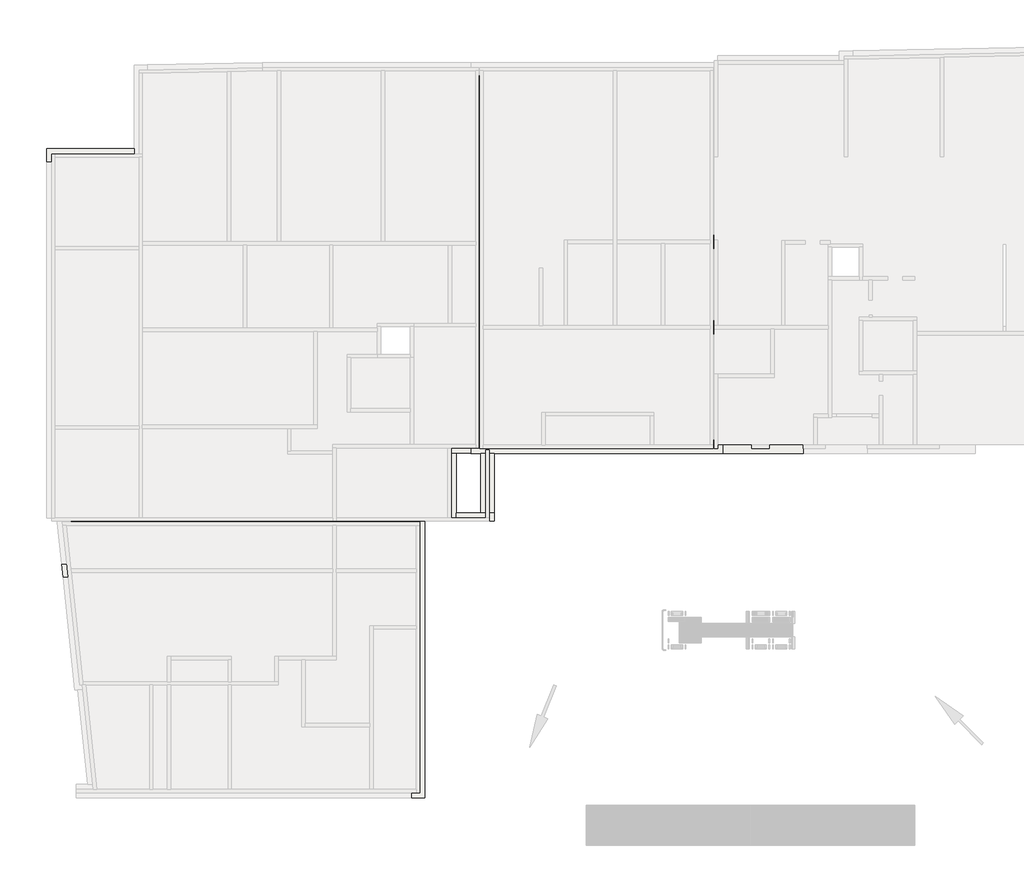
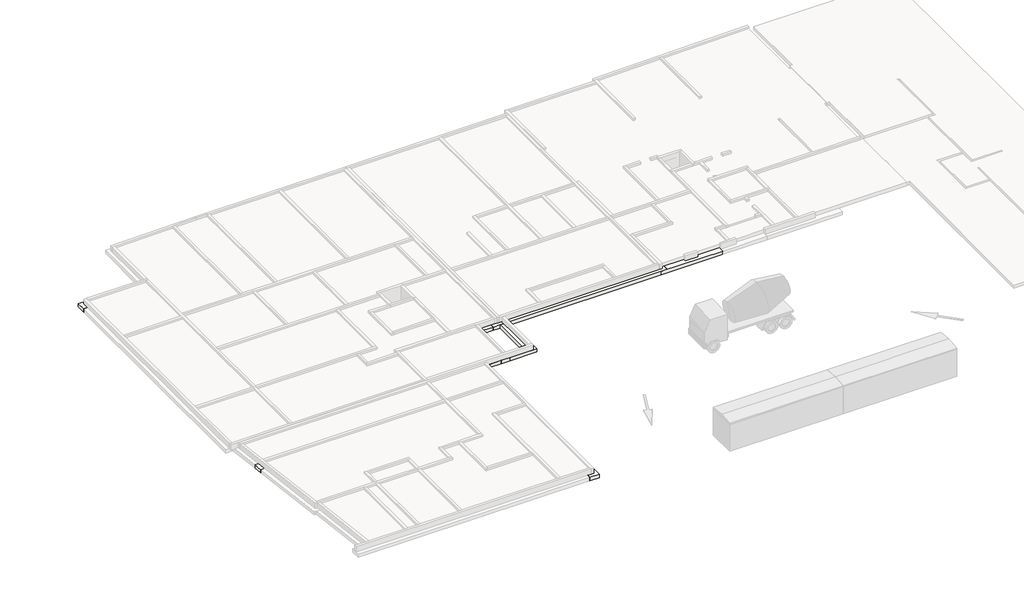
# One storey, part 4 of 5: 46 footings.
"""IFC4 building model written with IfcOpenShell, lengths in millimetres."""

from ifc_helpers import new_model, si_unit, frame, origin, place, context, project, spatial, polyline, outline, extrude, faceted_brep, element, save

model = new_model("IFC4")

# Units and contexts
model_context = context("Model", 3, world=origin())
ifc_project = project(units=[si_unit("LENGTHUNIT", "METRE", prefix="MILLI")], contexts=[model_context])

# Site, building, storey
site = spatial("IfcSite", under=ifc_project)
building = spatial("IfcBuilding", under=site)
storey = spatial("IfcBuildingStorey", under=building, Name="Base Mur soubassement", Elevation=-480.0)

# Footings
placement = place(None, origin())
element("IfcFooting", 1, ObjectType="Soubassement 30 cm/30 cm x 30 cm", at=placement, inside=storey, context=model_context, shape_type="Brep", body=[
    faceted_brep([(31528.7587922, 36682.4079561, -480.0), (31528.7587922, 27172.4500352, -480.0), (31528.7587922, 26372.4500352, -480.0), (31528.7587922, 22073.8066571, -480.0), (32328.7587922, 22073.8066571, -480.0), (32328.7587922, 26372.4500352, -480.0), (32328.7587922, 27172.4500352, -480.0), (32328.7587922, 36682.4079561, -480.0), (32328.7587922, 36682.4079561, -780.0), (32328.7587922, 22073.8066571, -780.0), (32328.7587922, 26372.4500352, -780.0), (32328.7587922, 27172.4500352, -780.0), (31528.7587922, 36682.4079561, -780.0), (31528.7587922, 22073.8066571, -780.0), (31528.7587922, 26372.4500352, -780.0), (31528.7587922, 27172.4500352, -780.0)], [[[0, 1, 2, 3, 4, 5, 6, 7]], [[8, 7, 6, 5, 4, 9, 10, 11]], [[12, 8, 11, 10, 9, 13, 14, 15]], [[0, 12, 15, 14, 13, 3, 2, 1]], [[0, 7, 8, 12]], [[4, 3, 13, 9]]]),
])
element("IfcFooting", 2, ObjectType="Soubassement 30 cm/30 cm x 30 cm", at=placement, inside=storey, context=model_context, shape_type="Brep", body=[
    faceted_brep([(24379.3002373, 27172.4500352, -480.0), (24379.3002373, 27172.4500352, -780.0), (24379.3002373, 26372.4500352, -780.0), (24379.3002373, 26372.4500352, -480.0), (27126.9896309, 26372.4500352, -480.0), (27926.9896309, 26372.4500352, -480.0), (28598.3646686, 26372.4500352, -480.0), (29398.3646686, 26372.4500352, -480.0), (31528.7587922, 26372.4500352, -480.0), (31528.7587922, 27172.4500352, -480.0), (31528.7587922, 27172.4500352, -780.0), (31528.7587922, 26372.4500352, -780.0), (29398.3646686, 26372.4500352, -780.0), (28598.3646686, 26372.4500352, -780.0), (27926.9896309, 26372.4500352, -780.0), (27126.9896309, 26372.4500352, -780.0)], [[[0, 1, 2, 3]], [[0, 3, 4, 5, 6, 7, 8, 9]], [[1, 0, 9, 10]], [[2, 1, 10, 11, 12, 13, 14, 15]], [[3, 2, 15, 14, 13, 12, 11, 8, 7, 6, 5, 4]], [[9, 8, 11, 10]]]),
    faceted_brep([(38358.398272, 26372.4500352, -480.0), (38358.398272, 27157.8817009, -480.0), (38358.398272, 27172.4500352, -480.0), (37308.398272, 27172.4500352, -480.0), (32328.7587922, 27172.4500352, -480.0), (32328.7587922, 26372.4500352, -480.0), (34393.5365752, 26372.4500352, -480.0), (35193.5365752, 26372.4500352, -480.0), (37308.398272, 26372.4500352, -480.0), (38166.5033212, 26372.4500352, -480.0), (38358.398272, 27172.4500352, -780.0), (37308.398272, 27172.4500352, -780.0), (32328.7587922, 27172.4500352, -780.0), (38358.398272, 27157.8817009, -780.0), (38358.398272, 26372.4500352, -780.0), (38166.5033212, 26372.4500352, -780.0), (37308.398272, 26372.4500352, -780.0), (35193.5365752, 26372.4500352, -780.0), (34393.5365752, 26372.4500352, -780.0), (32328.7587922, 26372.4500352, -780.0)], [[[0, 1, 2, 3, 4, 5, 6, 7, 8, 9]], [[2, 10, 11, 12, 4, 3]], [[10, 13, 14, 15, 16, 17, 18, 19, 12, 11]], [[14, 0, 9, 8, 7, 6, 5, 19, 18, 17, 16, 15]], [[5, 4, 12, 19]], [[2, 1, 0, 14, 13, 10]]]),
])
element("IfcFooting", 3, ObjectType="Soubassement 30 cm/30 cm x 30 cm", at=placement, inside=storey, context=model_context, shape_type="Brep", body=[
    faceted_brep([(38358.398272, 22073.8066571, -480.0), (37308.398272, 22073.8066571, -480.0), (35193.5365752, 22073.8066571, -480.0), (34393.5365752, 22073.8066571, -480.0), (32328.7587922, 22073.8066571, -480.0), (31528.7587922, 22073.8066571, -480.0), (29398.3646686, 22073.8066571, -480.0), (28598.3646686, 22073.8066571, -480.0), (27926.9896309, 22073.8066571, -480.0), (27126.9896309, 22073.8066571, -480.0), (24379.3002373, 22073.8066571, -480.0), (23619.3814813, 22073.8066571, -480.0), (23329.3002373, 22073.8066571, -480.0), (23329.3002373, 21416.9971343, -480.0), (23329.3002373, 21273.8066571, -480.0), (24379.3002373, 21273.8066571, -480.0), (37308.398272, 21273.8066571, -480.0), (37868.7313075, 21273.8066571, -480.0), (38358.398272, 21273.8066571, -480.0), (38358.398272, 22072.4500352, -480.0), (38358.398272, 21273.8066571, -780.0), (23329.3002373, 21273.8066571, -780.0), (24379.3002373, 21273.8066571, -780.0), (37308.398272, 21273.8066571, -780.0), (37868.7313075, 21273.8066571, -780.0), (38358.398272, 22073.8066571, -780.0), (38358.398272, 22072.4500352, -780.0), (23329.3002373, 21416.9971343, -780.0), (23329.3002373, 22073.8066571, -780.0), (23619.3814813, 22073.8066571, -780.0), (24379.3002373, 22073.8066571, -780.0), (27126.9896309, 22073.8066571, -780.0), (27926.9896309, 22073.8066571, -780.0), (28598.3646686, 22073.8066571, -780.0), (29398.3646686, 22073.8066571, -780.0), (31528.7587922, 22073.8066571, -780.0), (32328.7587922, 22073.8066571, -780.0), (34393.5365752, 22073.8066571, -780.0), (35193.5365752, 22073.8066571, -780.0), (37308.398272, 22073.8066571, -780.0)], [[[0, 1, 2, 3, 4, 5, 6, 7, 8, 9, 10, 11, 12, 13, 14, 15, 16, 17, 18, 19]], [[20, 18, 17, 16, 15, 14, 21, 22, 23, 24]], [[25, 26, 20, 24, 23, 22, 21, 27, 28, 29, 30, 31, 32, 33, 34, 35, 36, 37, 38, 39]], [[0, 25, 39, 38, 37, 36, 35, 34, 33, 32, 31, 30, 29, 28, 12, 11, 10, 9, 8, 7, 6, 5, 4, 3, 2, 1]], [[0, 19, 18, 20, 26, 25]], [[14, 13, 12, 28, 27, 21]]]),
])
element("IfcFooting", 4, ObjectType="Soubassement 30 cm/30 cm x 30 cm", at=placement, inside=storey, context=model_context, shape_type="Brep", body=[
    faceted_brep([(27266.9796966, 16111.4012934, -480.0), (28066.9796966, 16111.4012934, -480.0), (33752.3966699, 16111.4012934, -480.0), (34552.3966699, 16111.4012934, -480.0), (34552.3966699, 16911.4012934, -480.0), (27266.9796966, 16911.4012934, -480.0), (27266.9796966, 16911.4012934, -780.0), (34552.3966699, 16911.4012934, -780.0), (27266.9796966, 16111.4012934, -780.0), (34552.3966699, 16111.4012934, -780.0), (33752.3966699, 16111.4012934, -780.0), (28066.9796966, 16111.4012934, -780.0)], [[[0, 1, 2, 3, 4, 5]], [[6, 5, 4, 7]], [[8, 6, 7, 9, 10, 11]], [[0, 8, 11, 10, 9, 3, 2, 1]], [[0, 5, 6, 8]], [[4, 3, 9, 7]]]),
])
element("IfcFooting", 5, ObjectType="Soubassement 30 cm/30 cm x 30 cm", at=placement, inside=storey, context=model_context, shape_type="Brep", body=[
    faceted_brep([(23329.3002373, 14164.3593187, -480.0), (23935.2475272, 14164.3593187, -480.0), (24735.2475272, 14164.3593187, -480.0), (37848.6597873, 14164.3593187, -480.0), (38358.398272, 14164.3593187, -480.0), (38358.398272, 14962.6998135, -480.0), (38358.398272, 14964.3593187, -480.0), (37308.398272, 14964.3593187, -480.0), (34552.3966699, 14964.3593187, -480.0), (33752.3966699, 14964.3593187, -480.0), (28066.9796966, 14964.3593187, -480.0), (27266.9796966, 14964.3593187, -480.0), (24379.3002373, 14964.3593187, -480.0), (23619.3814813, 14964.3593187, -480.0), (23329.3002373, 14964.3593187, -480.0), (23329.3002373, 14187.8380735, -480.0), (23329.3002373, 14964.3593187, -780.0), (38358.398272, 14964.3593187, -780.0), (37308.398272, 14964.3593187, -780.0), (34552.3966699, 14964.3593187, -780.0), (33752.3966699, 14964.3593187, -780.0), (28066.9796966, 14964.3593187, -780.0), (27266.9796966, 14964.3593187, -780.0), (24379.3002373, 14964.3593187, -780.0), (23619.3814813, 14964.3593187, -780.0), (23329.3002373, 14164.3593187, -780.0), (23329.3002373, 14187.8380735, -780.0), (38358.398272, 14962.6998135, -780.0), (38358.398272, 14164.3593187, -780.0), (37848.6597873, 14164.3593187, -780.0), (24735.2475272, 14164.3593187, -780.0), (23935.2475272, 14164.3593187, -780.0)], [[[0, 1, 2, 3, 4, 5, 6, 7, 8, 9, 10, 11, 12, 13, 14, 15]], [[16, 14, 13, 12, 11, 10, 9, 8, 7, 6, 17, 18, 19, 20, 21, 22, 23, 24]], [[25, 26, 16, 24, 23, 22, 21, 20, 19, 18, 17, 27, 28, 29, 30, 31]], [[0, 25, 31, 30, 29, 28, 4, 3, 2, 1]], [[0, 15, 14, 16, 26, 25]], [[6, 5, 4, 28, 27, 17]]]),
])
element("IfcFooting", 6, ObjectType="Soubassement 30 cm/30 cm x 30 cm", at=placement, inside=storey, context=model_context, shape_type="Brep", body=[
    faceted_brep([(23619.3814813, 14987.8380735, -780.0), (23619.3814813, 14987.8380735, -480.0), (23619.3814813, 14964.3593187, -480.0), (23619.3814813, 14964.3593187, -780.0), (23329.3002373, 14987.8380735, -480.0), (20229.9333488, 14987.8380735, -480.0), (19429.9333488, 14987.8380735, -480.0), (14809.3203129, 14987.8380735, -480.0), (14809.3203129, 14617.7151114, -480.0), (14809.3203129, 14187.8380735, -480.0), (15609.3203129, 14187.8380735, -480.0), (21668.3655313, 14187.8380735, -480.0), (22468.3655313, 14187.8380735, -480.0), (23329.3002373, 14187.8380735, -480.0), (23329.3002373, 14964.3593187, -480.0), (14809.3203129, 14187.8380735, -780.0), (15609.3203129, 14187.8380735, -780.0), (21668.3655313, 14187.8380735, -780.0), (22468.3655313, 14187.8380735, -780.0), (23329.3002373, 14187.8380735, -780.0), (14809.3203129, 14987.8380735, -780.0), (19429.9333488, 14987.8380735, -780.0), (20229.9333488, 14987.8380735, -780.0), (23329.3002373, 14987.8380735, -780.0), (23329.3002373, 14964.3593187, -780.0), (14809.3203129, 14617.7151114, -780.0)], [[[0, 1, 2, 3]], [[1, 4, 5, 6, 7, 8, 9, 10, 11, 12, 13, 14, 2]], [[9, 15, 16, 17, 18, 19, 13, 12, 11, 10]], [[20, 21, 22, 23, 0, 3, 24, 19, 18, 17, 16, 15, 25]], [[1, 0, 23, 22, 21, 20, 7, 6, 5, 4]], [[9, 8, 7, 20, 25, 15]], [[14, 24, 3, 2]], [[24, 14, 13, 19]]]),
])
element("IfcFooting", 7, ObjectType="Soubassement 30 cm/30 cm x 30 cm", at=placement, inside=storey, context=model_context, shape_type="Brep", body=[
    faceted_brep([(21668.3655313, 10115.4117008, -480.0), (22468.3655313, 10115.4117008, -480.0), (22468.3655313, 10615.4117008, -480.0), (22468.3655313, 14187.8380735, -480.0), (21668.3655313, 14187.8380735, -480.0), (21668.3655313, 10615.4117008, -480.0), (22468.3655313, 10115.4117008, -780.0), (22468.3655313, 10615.4117008, -780.0), (22468.3655313, 14187.8380735, -780.0), (21668.3655313, 10115.4117008, -780.0), (21668.3655313, 10615.4117008, -780.0), (21668.3655313, 14187.8380735, -780.0)], [[[0, 1, 2, 3, 4, 5]], [[1, 6, 7, 8, 3, 2]], [[6, 9, 10, 11, 8, 7]], [[9, 0, 5, 4, 11, 10]], [[4, 3, 8, 11]], [[1, 0, 9, 6]]]),
])
element("IfcFooting", 8, ObjectType="Soubassement 30 cm/30 cm x 30 cm", at=placement, inside=storey, context=model_context, shape_type="SweptSolid", body=[
    extrude(outline(polyline([(27266.9796966, 16111.4012934), (28066.9796966, 16111.4012934), (28066.9796966, 14964.3593187), (27266.9796966, 14964.3593187), (27266.9796966, 16111.4012934)])), frame((0.0, 0.0, -780.0), z_axis=(0.0, 0.0, 1.0), x_axis=(1.0, 0.0, 0.0)), (0.0, 0.0, 1.0), 300.0),
])
element("IfcFooting", 9, ObjectType="Soubassement 30 cm/30 cm x 30 cm", at=placement, inside=storey, context=model_context, shape_type="SweptSolid", body=[
    extrude(outline(polyline([(33752.3966699, 16111.4012934), (34552.3966699, 16111.4012934), (34552.3966699, 14964.3593187), (33752.3966699, 14964.3593187), (33752.3966699, 16111.4012934)])), frame((0.0, 0.0, -780.0), z_axis=(0.0, 0.0, 1.0), x_axis=(1.0, 0.0, 0.0)), (0.0, 0.0, 1.0), 300.0),
])
element("IfcFooting", 10, ObjectType="Soubassement 30 cm/30 cm x 30 cm", at=placement, inside=storey, context=model_context, shape_type="SweptSolid", body=[
    extrude(outline(polyline([(27126.9896309, 26372.4500352), (27926.9896309, 26372.4500352), (27926.9896309, 22073.8066571), (27126.9896309, 22073.8066571), (27126.9896309, 26372.4500352)])), frame((0.0, 0.0, -780.0), z_axis=(0.0, 0.0, 1.0), x_axis=(1.0, 0.0, 0.0)), (0.0, 0.0, 1.0), 300.0),
])
element("IfcFooting", 11, ObjectType="Soubassement 30 cm/30 cm x 30 cm", at=placement, inside=storey, context=model_context, shape_type="SweptSolid", body=[
    extrude(outline(polyline([(29398.3646686, 22073.8066571), (28598.3646686, 22073.8066571), (28598.3646686, 26372.4500352), (29398.3646686, 26372.4500352), (29398.3646686, 22073.8066571)])), frame((0.0, 0.0, -780.0), z_axis=(0.0, 0.0, 1.0), x_axis=(1.0, 0.0, 0.0)), (0.0, 0.0, 1.0), 300.0),
])
element("IfcFooting", 12, ObjectType="Soubassement 30 cm/30 cm x 30 cm", at=placement, inside=storey, context=model_context, shape_type="Brep", body=[
    faceted_brep([(14464.9548931, 15349.6332906, -480.0), (14464.9548931, 21125.9455164, -480.0), (13664.9548931, 21125.9455164, -480.0), (13664.9548931, 16149.6332906, -480.0), (13664.9548931, 15349.6332906, -480.0), (13664.9548931, 15349.6332906, -780.0), (13664.9548931, 21125.9455164, -780.0), (13664.9548931, 16149.6332906, -780.0), (14464.9548931, 15349.6332906, -780.0), (14464.9548931, 21125.9455164, -780.0)], [[[0, 1, 2, 3, 4]], [[5, 4, 3, 2, 6, 7]], [[8, 5, 7, 6, 9]], [[0, 8, 9, 1]], [[2, 1, 9, 6]], [[0, 4, 5, 8]]]),
])
element("IfcFooting", 13, ObjectType="Soubassement 30 cm/30 cm x 30 cm", at=placement, inside=storey, context=model_context, shape_type="Brep", body=[
    faceted_brep([(17765.1211572, 21925.9455164, -480.0), (17765.1211572, 21125.9455164, -480.0), (17765.1211572, 21125.9455164, -780.0), (17765.1211572, 21925.9455164, -780.0), (3256.9078335, 21125.9455164, -480.0), (4056.9078335, 21125.9455164, -480.0), (13664.9548931, 21125.9455164, -480.0), (14464.9548931, 21125.9455164, -480.0), (15413.9907355, 21925.9455164, -480.0), (14613.9907355, 21925.9455164, -480.0), (10278.0983694, 21925.9455164, -480.0), (9478.0983694, 21925.9455164, -480.0), (4056.9078335, 21925.9455164, -480.0), (3256.9078335, 21925.9455164, -480.0), (3256.9078335, 21925.9455164, -780.0), (15413.9907355, 21925.9455164, -780.0), (14613.9907355, 21925.9455164, -780.0), (10278.0983694, 21925.9455164, -780.0), (9478.0983694, 21925.9455164, -780.0), (4056.9078335, 21925.9455164, -780.0), (3256.9078335, 21125.9455164, -780.0), (14464.9548931, 21125.9455164, -780.0), (13664.9548931, 21125.9455164, -780.0), (4056.9078335, 21125.9455164, -780.0)], [[[0, 1, 2, 3]], [[4, 5, 6, 7, 1, 0, 8, 9, 10, 11, 12, 13]], [[14, 13, 12, 11, 10, 9, 8, 0, 3, 15, 16, 17, 18, 19]], [[20, 14, 19, 18, 17, 16, 15, 3, 2, 21, 22, 23]], [[4, 20, 23, 22, 21, 2, 1, 7, 6, 5]], [[4, 13, 14, 20]]]),
])
element("IfcFooting", 14, ObjectType="Soubassement 30 cm/30 cm x 30 cm", at=placement, inside=storey, context=model_context, shape_type="Brep", body=[
    faceted_brep([(23619.3814813, 22216.9971343, -780.0), (23619.3814813, 22216.9971343, -480.0), (23619.3814813, 22073.8066571, -480.0), (23619.3814813, 22073.8066571, -780.0), (19929.9333488, 21416.9971343, -780.0), (19929.9333488, 21416.9971343, -480.0), (19929.9333488, 22216.9971343, -480.0), (19929.9333488, 22216.9971343, -780.0), (23329.3002373, 22216.9971343, -480.0), (22495.0786989, 22216.9971343, -480.0), (21695.0786989, 22216.9971343, -480.0), (23329.3002373, 21416.9971343, -480.0), (23329.3002373, 22073.8066571, -480.0), (23329.3002373, 21416.9971343, -780.0), (21695.0786989, 22216.9971343, -780.0), (22495.0786989, 22216.9971343, -780.0), (23329.3002373, 22216.9971343, -780.0), (23329.3002373, 22073.8066571, -780.0)], [[[0, 1, 2, 3]], [[4, 5, 6, 7]], [[1, 8, 9, 10, 6, 5, 11, 12, 2]], [[5, 4, 13, 11]], [[4, 7, 14, 15, 16, 0, 3, 17, 13]], [[1, 0, 16, 15, 14, 7, 6, 10, 9, 8]], [[12, 17, 3, 2]], [[17, 12, 11, 13]]]),
])
element("IfcFooting", 15, ObjectType="Soubassement 30 cm/30 cm x 30 cm", at=placement, inside=storey, context=model_context, shape_type="Brep", body=[
    faceted_brep([(21695.0786989, 27087.8872551, -480.0), (21695.0786989, 26287.8872551, -480.0), (21695.0786989, 22216.9971343, -480.0), (22495.0786989, 22216.9971343, -480.0), (22495.0786989, 26287.8872551, -480.0), (22495.0786989, 27087.8872551, -480.0), (22495.0786989, 27087.8872551, -780.0), (22495.0786989, 22216.9971343, -780.0), (22495.0786989, 26287.8872551, -780.0), (21695.0786989, 27087.8872551, -780.0), (21695.0786989, 22216.9971343, -780.0), (21695.0786989, 26287.8872551, -780.0)], [[[0, 1, 2, 3, 4, 5]], [[6, 5, 4, 3, 7, 8]], [[9, 6, 8, 7, 10, 11]], [[0, 9, 11, 10, 2, 1]], [[3, 2, 10, 7]], [[0, 5, 6, 9]]]),
])
element("IfcFooting", 16, ObjectType="Soubassement 30 cm/30 cm x 30 cm", at=placement, inside=storey, context=model_context, shape_type="Brep", body=[
    faceted_brep([(23619.3814813, 26287.8872551, -480.0), (23619.3814813, 26287.8872551, -780.0), (23619.3814813, 27087.8872551, -780.0), (23619.3814813, 27087.8872551, -480.0), (23329.3002373, 27087.8872551, -480.0), (22495.0786989, 27087.8872551, -480.0), (22495.0786989, 26287.8872551, -480.0), (23329.3002373, 26287.8872551, -480.0), (22495.0786989, 26287.8872551, -780.0), (23329.3002373, 26287.8872551, -780.0), (22495.0786989, 27087.8872551, -780.0), (23329.3002373, 27087.8872551, -780.0)], [[[0, 1, 2, 3]], [[0, 3, 4, 5, 6, 7]], [[1, 0, 7, 6, 8, 9]], [[2, 1, 9, 8, 10, 11]], [[3, 2, 11, 10, 5, 4]], [[6, 5, 10, 8]]]),
    faceted_brep([(3256.9078335, 27087.8872551, -480.0), (3256.9078335, 26808.0923089, -480.0), (3256.9078335, 26287.8872551, -480.0), (4056.9078335, 26287.8872551, -480.0), (9478.0983694, 26287.8872551, -480.0), (10278.0983694, 26287.8872551, -480.0), (14613.9907355, 26287.8872551, -480.0), (15413.9907355, 26287.8872551, -480.0), (21695.0786989, 26287.8872551, -480.0), (21695.0786989, 27087.8872551, -480.0), (18499.2548774, 27087.8872551, -480.0), (17699.2548774, 27087.8872551, -480.0), (12303.2656575, 27087.8872551, -480.0), (11503.2656575, 27087.8872551, -480.0), (9317.5794193, 27087.8872551, -480.0), (8517.5794193, 27087.8872551, -480.0), (4056.9078335, 27087.8872551, -480.0), (3256.9078335, 26287.8872551, -780.0), (4056.9078335, 26287.8872551, -780.0), (9478.0983694, 26287.8872551, -780.0), (10278.0983694, 26287.8872551, -780.0), (14613.9907355, 26287.8872551, -780.0), (15413.9907355, 26287.8872551, -780.0), (21695.0786989, 26287.8872551, -780.0), (3256.9078335, 26808.0923089, -780.0), (3256.9078335, 27087.8872551, -780.0), (4056.9078335, 27087.8872551, -780.0), (8517.5794193, 27087.8872551, -780.0), (9317.5794193, 27087.8872551, -780.0), (11503.2656575, 27087.8872551, -780.0), (12303.2656575, 27087.8872551, -780.0), (17699.2548774, 27087.8872551, -780.0), (18499.2548774, 27087.8872551, -780.0), (21695.0786989, 27087.8872551, -780.0)], [[[0, 1, 2, 3, 4, 5, 6, 7, 8, 9, 10, 11, 12, 13, 14, 15, 16]], [[2, 17, 18, 19, 20, 21, 22, 23, 8, 7, 6, 5, 4, 3]], [[17, 24, 25, 26, 27, 28, 29, 30, 31, 32, 33, 23, 22, 21, 20, 19, 18]], [[25, 0, 16, 15, 14, 13, 12, 11, 10, 9, 33, 32, 31, 30, 29, 28, 27, 26]], [[9, 8, 23, 33]], [[2, 1, 0, 25, 24, 17]]]),
])
element("IfcFooting", 17, ObjectType="Soubassement 30 cm/30 cm x 30 cm", at=placement, inside=storey, context=model_context, shape_type="SweptSolid", body=[
    extrude(outline(polyline([(15413.9907355, 21925.9455164), (14613.9907355, 21925.9455164), (14613.9907355, 26287.8872551), (15413.9907355, 26287.8872551), (15413.9907355, 21925.9455164)])), frame((0.0, 0.0, -780.0), z_axis=(0.0, 0.0, 1.0), x_axis=(1.0, 0.0, 0.0)), (0.0, 0.0, 1.0), 300.0),
])
element("IfcFooting", 18, ObjectType="Soubassement 30 cm/30 cm x 30 cm", at=placement, inside=storey, context=model_context, shape_type="SweptSolid", body=[
    extrude(outline(polyline([(10278.0983694, 21925.9455164), (9478.0983694, 21925.9455164), (9478.0983694, 26287.8872551), (10278.0983694, 26287.8872551), (10278.0983694, 21925.9455164)])), frame((0.0, 0.0, -780.0), z_axis=(0.0, 0.0, 1.0), x_axis=(1.0, 0.0, 0.0)), (0.0, 0.0, 1.0), 300.0),
])
element("IfcFooting", 19, ObjectType="Soubassement 30 cm/30 cm x 30 cm", at=placement, inside=storey, context=model_context, shape_type="SweptSolid", body=[
    extrude(outline(polyline([(11503.2656575, 36682.4079561), (12303.2656575, 36682.4079561), (12303.2656575, 27087.8872551), (11503.2656575, 27087.8872551), (11503.2656575, 36682.4079561)])), frame((0.0, 0.0, -780.0), z_axis=(0.0, 0.0, 1.0), x_axis=(1.0, 0.0, 0.0)), (0.0, 0.0, 1.0), 300.0),
])
element("IfcFooting", 20, ObjectType="Soubassement 30 cm/30 cm x 30 cm", at=placement, inside=storey, context=model_context, shape_type="SweptSolid", body=[
    extrude(outline(polyline([(17699.2548774, 36682.4079561), (18499.2548774, 36682.4079561), (18499.2548774, 27087.8872551), (17699.2548774, 27087.8872551), (17699.2548774, 36682.4079561)])), frame((0.0, 0.0, -780.0), z_axis=(0.0, 0.0, 1.0), x_axis=(1.0, 0.0, 0.0)), (0.0, 0.0, 1.0), 300.0),
])
element("IfcFooting", 21, ObjectType="Soubassement 30 cm/30 cm x 30 cm", at=placement, inside=storey, context=model_context, shape_type="SweptSolid", body=[
    extrude(outline(polyline([(8517.5794193, 36634.8999283), (9317.5794193, 36650.8279104), (9317.5794193, 27087.8872551), (8517.5794193, 27087.8872551), (8517.5794193, 36634.8999283)])), frame((0.0, 0.0, -780.0), z_axis=(0.0, 0.0, 1.0), x_axis=(1.0, 0.0, 0.0)), (0.0, 0.0, 1.0), 300.0),
])
element("IfcFooting", 22, ObjectType="Soubassement 30 cm/30 cm x 30 cm", at=placement, inside=storey, context=model_context, shape_type="Brep", body=[
    faceted_brep([(4056.9078335, 31828.092309, -480.0), (4056.9078335, 31828.092309, -780.0), (3256.9078335, 31828.092309, -780.0), (3256.9078335, 31828.092309, -480.0), (3256.9078335, 31528.092309, -480.0), (3256.9078335, 27087.8872551, -480.0), (4056.9078335, 27087.8872551, -480.0), (4056.9078335, 27087.8872551, -780.0), (3256.9078335, 27087.8872551, -780.0), (3256.9078335, 31528.092309, -780.0)], [[[0, 1, 2, 3]], [[0, 3, 4, 5, 6]], [[1, 0, 6, 7]], [[2, 1, 7, 8, 9]], [[3, 2, 9, 8, 5, 4]], [[6, 5, 8, 7]]]),
    faceted_brep([(4056.9078335, 10315.4117008, -780.0), (4056.9078335, 10315.4117008, -480.0), (3256.9078335, 10315.4117008, -480.0), (3256.9078335, 10315.4117008, -780.0), (4056.9078335, 10615.4625547, -480.0), (4056.9078335, 15349.6332906, -480.0), (4056.9078335, 16149.6332906, -480.0), (4056.9078335, 21125.9455164, -480.0), (3256.9078335, 21125.9455164, -480.0), (3256.9078335, 16100.3661348, -480.0), (3256.9078335, 15300.3661348, -480.0), (3256.9078335, 10615.4625547, -480.0), (4056.9078335, 10615.4625547, -780.0), (4056.9078335, 15349.6332906, -780.0), (4056.9078335, 16149.6332906, -780.0), (4056.9078335, 21125.9455164, -780.0), (3256.9078335, 10615.4625547, -780.0), (3256.9078335, 15300.3661348, -780.0), (3256.9078335, 16100.3661348, -780.0), (3256.9078335, 21125.9455164, -780.0)], [[[0, 1, 2, 3]], [[2, 1, 4, 5, 6, 7, 8, 9, 10, 11]], [[1, 0, 12, 13, 14, 15, 7, 6, 5, 4]], [[0, 3, 16, 17, 18, 19, 15, 14, 13, 12]], [[3, 2, 11, 10, 9, 8, 19, 18, 17, 16]], [[8, 7, 15, 19]]]),
    faceted_brep([(3256.9078335, 21925.9455164, -480.0), (4056.9078335, 21925.9455164, -480.0), (4056.9078335, 26287.8872551, -480.0), (3256.9078335, 26287.8872551, -480.0), (3256.9078335, 26008.0923089, -480.0), (4056.9078335, 21925.9455164, -780.0), (4056.9078335, 26287.8872551, -780.0), (3256.9078335, 21925.9455164, -780.0), (3256.9078335, 26008.0923089, -780.0), (3256.9078335, 26287.8872551, -780.0)], [[[0, 1, 2, 3, 4]], [[1, 5, 6, 2]], [[5, 7, 8, 9, 6]], [[7, 0, 4, 3, 9, 8]], [[1, 0, 7, 5]], [[3, 2, 6, 9]]]),
])
element("IfcFooting", 23, ObjectType="Soubassement 30 cm/30 cm x 30 cm", at=placement, inside=storey, context=model_context, shape_type="Brep", body=[
    faceted_brep([(4056.9078335, 31828.092309, -480.0), (4056.9078335, 31828.092309, -780.0), (4056.9078335, 32028.092309, -780.0), (4056.9078335, 32028.092309, -480.0), (-1963.0020232, 31528.092309, -480.0), (-1163.0020232, 31528.092309, -480.0), (3256.9078335, 31528.092309, -480.0), (3256.9078335, 31828.092309, -480.0), (3256.9078335, 32028.092309, -480.0), (3256.9078335, 32328.092309, -480.0), (-1963.0020232, 32328.092309, -480.0), (-1963.0020232, 32328.092309, -780.0), (3256.9078335, 32328.092309, -780.0), (3256.9078335, 31528.092309, -780.0), (-1163.0020232, 31528.092309, -780.0), (-1963.0020232, 31528.092309, -780.0), (3256.9078335, 32028.092309, -780.0), (3256.9078335, 31828.092309, -780.0)], [[[0, 1, 2, 3]], [[4, 5, 6, 7, 0, 3, 8, 9, 10]], [[11, 10, 9, 12]], [[13, 14, 15, 11, 12, 16, 2, 1, 17]], [[6, 5, 4, 15, 14, 13]], [[7, 17, 1, 0]], [[17, 7, 6, 13]], [[16, 8, 3, 2]], [[8, 16, 12, 9]], [[4, 10, 11, 15]]]),
])
element("IfcFooting", 24, ObjectType="Soubassement 30 cm/30 cm x 30 cm", at=placement, inside=storey, context=model_context, shape_type="Brep", body=[
    faceted_brep([(3256.9078335, 26808.0923089, -480.0), (-1163.0020232, 26808.0923089, -480.0), (-1163.0020232, 26008.0923089, -480.0), (3256.9078335, 26008.0923089, -480.0), (3256.9078335, 26287.8872551, -480.0), (3256.9078335, 26008.0923089, -780.0), (-1163.0020232, 26008.0923089, -780.0), (3256.9078335, 26808.0923089, -780.0), (3256.9078335, 26287.8872551, -780.0), (-1163.0020232, 26808.0923089, -780.0)], [[[0, 1, 2, 3, 4]], [[5, 3, 2, 6]], [[7, 8, 5, 6, 9]], [[0, 7, 9, 1]], [[0, 4, 3, 5, 8, 7]], [[2, 1, 9, 6]]]),
])
element("IfcFooting", 25, ObjectType="Soubassement 30 cm/30 cm x 30 cm", at=placement, inside=storey, context=model_context, shape_type="SweptSolid", body=[
    extrude(outline(polyline([(3256.9078335, 16100.3661348), (3256.9078335, 15300.3661348), (-1163.0020232, 15300.3661348), (-1163.0020232, 16100.3661348), (3256.9078335, 16100.3661348)])), frame((0.0, 0.0, -780.0), z_axis=(0.0, 0.0, 1.0), x_axis=(1.0, 0.0, 0.0)), (0.0, 0.0, 1.0), 300.0),
])
element("IfcFooting", 26, ObjectType="Soubassement 30 cm/30 cm x 30 cm", at=placement, inside=storey, context=model_context, shape_type="Brep", body=[
    faceted_brep([(13664.9548931, 15349.6332906, -480.0), (13664.9548931, 16149.6332906, -480.0), (4056.9078335, 16149.6332906, -480.0), (4056.9078335, 15349.6332906, -480.0), (12109.3203129, 15349.6332906, -480.0), (12909.3203129, 15349.6332906, -480.0), (13664.9548931, 16149.6332906, -780.0), (4056.9078335, 16149.6332906, -780.0), (13664.9548931, 15349.6332906, -780.0), (12909.3203129, 15349.6332906, -780.0), (12109.3203129, 15349.6332906, -780.0), (4056.9078335, 15349.6332906, -780.0)], [[[0, 1, 2, 3, 4, 5]], [[1, 6, 7, 2]], [[6, 8, 9, 10, 11, 7]], [[8, 0, 5, 4, 3, 11, 10, 9]], [[1, 0, 8, 6]], [[3, 2, 7, 11]]]),
])
element("IfcFooting", 27, ObjectType="Soubassement 30 cm/30 cm x 30 cm", at=placement, inside=storey, context=model_context, shape_type="Brep", body=[
    faceted_brep([(12909.3203129, 13817.7151114, -480.0), (12909.3203129, 14617.7151114, -480.0), (12909.3203129, 15349.6332906, -480.0), (12109.3203129, 15349.6332906, -480.0), (12109.3203129, 13817.7151114, -480.0), (12109.3203129, 13817.7151114, -780.0), (12109.3203129, 15349.6332906, -780.0), (12909.3203129, 13817.7151114, -780.0), (12909.3203129, 15349.6332906, -780.0), (12909.3203129, 14617.7151114, -780.0)], [[[0, 1, 2, 3, 4]], [[5, 4, 3, 6]], [[7, 5, 6, 8, 9]], [[0, 7, 9, 8, 2, 1]], [[3, 2, 8, 6]], [[0, 4, 5, 7]]]),
])
element("IfcFooting", 28, ObjectType="Soubassement 30 cm/30 cm x 30 cm", at=placement, inside=storey, context=model_context, shape_type="Brep", body=[
    faceted_brep([(15609.3203129, 13817.7151114, -480.0), (15609.3203129, 14187.8380735, -480.0), (14809.3203129, 14187.8380735, -480.0), (14809.3203129, 14617.7151114, -480.0), (12909.3203129, 14617.7151114, -480.0), (12909.3203129, 13817.7151114, -480.0), (14809.3203129, 13817.7151114, -480.0), (15609.3203129, 13817.7151114, -780.0), (12909.3203129, 13817.7151114, -780.0), (14809.3203129, 13817.7151114, -780.0), (15609.3203129, 14187.8380735, -780.0), (12909.3203129, 14617.7151114, -780.0), (14809.3203129, 14617.7151114, -780.0), (14809.3203129, 14187.8380735, -780.0)], [[[0, 1, 2, 3, 4, 5, 6]], [[7, 0, 6, 5, 8, 9]], [[10, 7, 9, 8, 11, 12, 13]], [[3, 12, 11, 4]], [[13, 2, 1, 10]], [[5, 4, 11, 8]], [[0, 7, 10, 1]], [[2, 13, 12, 3]]]),
])
element("IfcFooting", 29, ObjectType="Soubassement 30 cm/30 cm x 30 cm", at=placement, inside=storey, context=model_context, shape_type="Brep", body=[
    faceted_brep([(14809.3203129, 10115.4117008, -480.0), (15609.3203129, 10115.4117008, -480.0), (15609.3203129, 10615.4625547, -480.0), (15609.3203129, 13817.7151114, -480.0), (14809.3203129, 13817.7151114, -480.0), (14809.3203129, 10615.4625547, -480.0), (15609.3203129, 10115.4117008, -780.0), (15609.3203129, 10615.4625547, -780.0), (15609.3203129, 13817.7151114, -780.0), (14809.3203129, 10115.4117008, -780.0), (14809.3203129, 10615.4625547, -780.0), (14809.3203129, 13817.7151114, -780.0)], [[[0, 1, 2, 3, 4, 5]], [[1, 6, 7, 8, 3, 2]], [[6, 9, 10, 11, 8, 7]], [[9, 0, 5, 4, 11, 10]], [[4, 3, 8, 11]], [[1, 0, 9, 6]]]),
])
element("IfcFooting", 30, ObjectType="Soubassement 30 cm/30 cm x 30 cm", at=placement, inside=storey, context=model_context, shape_type="Brep", body=[
    faceted_brep([(14809.3203129, 1554.5667291, -480.0), (15609.3203129, 1554.5667291, -480.0), (15609.3203129, 6768.5535935, -480.0), (15609.3203129, 7568.5535935, -480.0), (15609.3203129, 9565.4625547, -480.0), (15609.3203129, 10115.4117008, -480.0), (14809.3203129, 10115.4117008, -480.0), (14809.3203129, 9565.4625547, -480.0), (14809.3203129, 7568.5535935, -480.0), (14809.3203129, 6768.5535935, -480.0), (14809.3203129, 2354.5667291, -480.0), (14809.3203129, 1554.5667291, -780.0), (14809.3203129, 10115.4117008, -780.0), (14809.3203129, 9565.4625547, -780.0), (14809.3203129, 7568.5535935, -780.0), (14809.3203129, 6768.5535935, -780.0), (14809.3203129, 2354.5667291, -780.0), (15609.3203129, 1554.5667291, -780.0), (15609.3203129, 10115.4117008, -780.0), (15609.3203129, 9565.4625547, -780.0), (15609.3203129, 7568.5535935, -780.0), (15609.3203129, 6768.5535935, -780.0)], [[[0, 1, 2, 3, 4, 5, 6, 7, 8, 9, 10]], [[11, 0, 10, 9, 8, 7, 6, 12, 13, 14, 15, 16]], [[17, 11, 16, 15, 14, 13, 12, 18, 19, 20, 21]], [[1, 17, 21, 20, 19, 18, 5, 4, 3, 2]], [[1, 0, 11, 17]], [[6, 5, 18, 12]]]),
])
element("IfcFooting", 31, ObjectType="Soubassement 30 cm/30 cm x 30 cm", at=placement, inside=storey, context=model_context, shape_type="Brep", body=[
    faceted_brep([(19795.920738, 10615.4625547, -480.0), (19795.920738, 9565.4625547, -480.0), (19795.920738, 7568.5535935, -480.0), (19795.920738, 6768.5535935, -480.0), (19795.920738, 4181.8208674, -480.0), (19795.920738, 3381.8208674, -480.0), (19795.920738, -5585.1620119, -480.0), (19795.920738, -6385.1620119, -480.0), (20595.920738, -6385.1620119, -480.0), (20595.920738, 10115.4117008, -480.0), (20595.920738, 10615.4625547, -480.0), (20595.920738, 10615.4625547, -780.0), (20595.920738, -6385.1620119, -780.0), (20595.920738, 10115.4117008, -780.0), (19795.920738, 10615.4625547, -780.0), (19795.920738, -6385.1620119, -780.0), (19795.920738, -5585.1620119, -780.0), (19795.920738, 3381.8208674, -780.0), (19795.920738, 4181.8208674, -780.0), (19795.920738, 6768.5535935, -780.0), (19795.920738, 7568.5535935, -780.0), (19795.920738, 9565.4625547, -780.0)], [[[0, 1, 2, 3, 4, 5, 6, 7, 8, 9, 10]], [[11, 10, 9, 8, 12, 13]], [[14, 11, 13, 12, 15, 16, 17, 18, 19, 20, 21]], [[0, 14, 21, 20, 19, 18, 17, 16, 15, 7, 6, 5, 4, 3, 2, 1]], [[8, 7, 15, 12]], [[0, 10, 11, 14]]]),
])
element("IfcFooting", 32, ObjectType="Soubassement 30 cm/30 cm x 30 cm", at=placement, inside=storey, context=model_context, shape_type="Brep", body=[
    faceted_brep([(19795.920738, 6768.5535935, -480.0), (19795.920738, 7568.5535935, -480.0), (15609.3203129, 7568.5535935, -480.0), (15609.3203129, 6768.5535935, -480.0), (19795.920738, 7568.5535935, -780.0), (15609.3203129, 7568.5535935, -780.0), (19795.920738, 6768.5535935, -780.0), (15609.3203129, 6768.5535935, -780.0)], [[[0, 1, 2, 3]], [[1, 4, 5, 2]], [[4, 6, 7, 5]], [[6, 0, 3, 7]], [[1, 0, 6, 4]], [[3, 2, 5, 7]]]),
    faceted_brep([(-1058.4879722, 7568.5535935, -480.0), (-974.404584, 6768.5535935, -480.0), (-169.9979603, 6768.5535935, -480.0), (14809.3203129, 6768.5535935, -480.0), (14809.3203129, 7568.5535935, -480.0), (-254.0813485, 7568.5535935, -480.0), (-1058.4879722, 7568.5535935, -780.0), (14809.3203129, 7568.5535935, -780.0), (-254.0813485, 7568.5535935, -780.0), (-974.404584, 6768.5535935, -780.0), (14809.3203129, 6768.5535935, -780.0), (-169.9979603, 6768.5535935, -780.0)], [[[0, 1, 2, 3, 4, 5]], [[6, 0, 5, 4, 7, 8]], [[9, 6, 8, 7, 10, 11]], [[1, 9, 11, 10, 3, 2]], [[4, 3, 10, 7]], [[1, 0, 6, 9]]]),
])
element("IfcFooting", 33, ObjectType="Soubassement 30 cm/30 cm x 30 cm", at=placement, inside=storey, context=model_context, shape_type="SweptSolid", body=[
    extrude(outline(polyline([(5732.5686745, 1554.6479064), (5732.5686745, 2354.6479064), (8559.0521384, 2354.6479064), (8559.0521384, 1554.6479064), (5732.5686745, 1554.6479064)])), frame((0.0, 0.0, -780.0), z_axis=(0.0, 0.0, 1.0), x_axis=(1.0, 0.0, 0.0)), (0.0, 0.0, 1.0), 300.0),
])
element("IfcFooting", 34, ObjectType="Soubassement 30 cm/30 cm x 30 cm", at=placement, inside=storey, context=model_context, shape_type="Brep", body=[
    faceted_brep([(12142.4727838, 2354.5667291, -480.0), (11342.4727838, 2354.5667291, -480.0), (11342.4727838, 841.1378118, -480.0), (12142.4727838, 841.1378118, -480.0), (12142.4727838, 1554.5667291, -480.0), (11342.4727838, 2354.5667291, -780.0), (11342.4727838, 841.1378118, -780.0), (12142.4727838, 2354.5667291, -780.0), (12142.4727838, 1554.5667291, -780.0), (12142.4727838, 841.1378118, -780.0)], [[[0, 1, 2, 3, 4]], [[1, 5, 6, 2]], [[5, 7, 8, 9, 6]], [[7, 0, 4, 3, 9, 8]], [[3, 2, 6, 9]], [[1, 0, 7, 5]]]),
])
element("IfcFooting", 35, ObjectType="Soubassement 30 cm/30 cm x 30 cm", at=placement, inside=storey, context=model_context, shape_type="Brep", body=[
    faceted_brep([(14809.3203129, 1554.5667291, -480.0), (14809.3203129, 2354.5667291, -480.0), (12142.4727838, 2354.5667291, -480.0), (12142.4727838, 1554.5667291, -480.0), (12965.8329945, 1554.5667291, -480.0), (13765.8329945, 1554.5667291, -480.0), (14809.3203129, 2354.5667291, -780.0), (12142.4727838, 2354.5667291, -780.0), (14809.3203129, 1554.5667291, -780.0), (13765.8329945, 1554.5667291, -780.0), (12965.8329945, 1554.5667291, -780.0), (12142.4727838, 1554.5667291, -780.0)], [[[0, 1, 2, 3, 4, 5]], [[1, 6, 7, 2]], [[6, 8, 9, 10, 11, 7]], [[8, 0, 5, 4, 3, 11, 10, 9]], [[1, 0, 8, 6]], [[3, 2, 7, 11]]]),
])
element("IfcFooting", 36, ObjectType="Soubassement 30 cm/30 cm x 30 cm", at=placement, inside=storey, context=model_context, shape_type="SweptSolid", body=[
    extrude(outline(polyline([(19795.920738, 4181.8208674), (19795.920738, 3381.8208674), (17823.8377948, 3381.8208674), (17823.8377948, 4181.8208674), (19795.920738, 4181.8208674)])), frame((0.0, 0.0, -780.0), z_axis=(0.0, 0.0, 1.0), x_axis=(1.0, 0.0, 0.0)), (0.0, 0.0, 1.0), 300.0),
])
element("IfcFooting", 37, ObjectType="Soubassement 30 cm/30 cm x 30 cm", at=placement, inside=storey, context=model_context, shape_type="Brep", body=[
    faceted_brep([(44297.5546594, 14962.1405969, -480.0), (44297.5546594, 16002.6881549, -480.0), (44297.5546594, 16802.6881549, -480.0), (43497.5546594, 16802.6881549, -480.0), (43497.5546594, 14962.1405969, -480.0), (43497.5546594, 14962.1405969, -780.0), (43497.5546594, 16802.6881549, -780.0), (44297.5546594, 14962.1405969, -780.0), (44297.5546594, 16802.6881549, -780.0), (44297.5546594, 16002.6881549, -780.0)], [[[0, 1, 2, 3, 4]], [[5, 4, 3, 6]], [[7, 5, 6, 8, 9]], [[0, 7, 9, 8, 2, 1]], [[3, 2, 8, 6]], [[0, 4, 5, 7]]]),
])
element("IfcFooting", 38, ObjectType="Soubassement 30 cm/30 cm x 30 cm", at=placement, inside=storey, context=model_context, shape_type="Brep", body=[
    faceted_brep([(37848.6597873, 14162.6998135, -780.0), (37848.6597873, 14162.6998135, -480.0), (37848.6597873, 14164.3593187, -480.0), (37848.6597873, 14164.3593187, -780.0), (43150.9645277, 14962.6998135, -780.0), (43150.9645277, 14962.6998135, -480.0), (43150.9645277, 14962.1405969, -480.0), (43150.9645277, 14162.6998135, -480.0), (43150.9645277, 14162.6998135, -780.0), (43150.9645277, 14962.1405969, -780.0), (38358.398272, 14962.6998135, -480.0), (38358.398272, 14164.3593187, -480.0), (38358.398272, 14962.6998135, -780.0), (38358.398272, 14164.3593187, -780.0)], [[[0, 1, 2, 3]], [[4, 5, 6, 7, 8, 9]], [[1, 7, 6, 5, 10, 11, 2]], [[5, 4, 12, 10]], [[4, 9, 8, 0, 3, 13, 12]], [[1, 0, 8, 7]], [[11, 13, 3, 2]], [[13, 11, 10, 12]]]),
])
element("IfcFooting", 39, ObjectType="Soubassement 55 cm/30 cm x 30 cm pour mur jd", at=placement, inside=storey, context=model_context, shape_type="Brep", body=[
    faceted_brep([(24379.3002373, 36682.4079561, -480.0), (23329.3002373, 36682.4079561, -480.0), (23329.3002373, 27087.8872551, -480.0), (23619.3814813, 27087.8872551, -480.0), (23619.3814813, 26287.8872551, -480.0), (23329.3002373, 26287.8872551, -480.0), (23329.3002373, 22216.9971343, -480.0), (23619.3814813, 22216.9971343, -480.0), (23619.3814813, 22073.8066571, -480.0), (24379.3002373, 22073.8066571, -480.0), (24379.3002373, 26372.4500352, -480.0), (24379.3002373, 27172.4500352, -480.0), (24379.3002373, 36682.4079561, -780.0), (24379.3002373, 22073.8066571, -780.0), (24379.3002373, 26372.4500352, -780.0), (24379.3002373, 27172.4500352, -780.0), (23329.3002373, 36682.4079561, -780.0), (23619.3814813, 22073.8066571, -780.0), (23619.3814813, 22216.9971343, -780.0), (23329.3002373, 22216.9971343, -780.0), (23329.3002373, 26287.8872551, -780.0), (23619.3814813, 26287.8872551, -780.0), (23619.3814813, 27087.8872551, -780.0), (23329.3002373, 27087.8872551, -780.0)], [[[0, 1, 2, 3, 4, 5, 6, 7, 8, 9, 10, 11]], [[12, 0, 11, 10, 9, 13, 14, 15]], [[16, 12, 15, 14, 13, 17, 18, 19, 20, 21, 22, 23]], [[1, 16, 23, 2]], [[19, 6, 5, 20]], [[1, 0, 12, 16]], [[13, 9, 8, 17]], [[7, 18, 17, 8]], [[18, 7, 6, 19]], [[21, 4, 3, 22]], [[4, 21, 20, 5]], [[22, 3, 2, 23]]]),
    faceted_brep([(24379.3002373, 21273.8066571, -480.0), (23329.3002373, 21273.8066571, -480.0), (23329.3002373, 14987.8380735, -480.0), (23619.3814813, 14987.8380735, -480.0), (23619.3814813, 14964.3593187, -480.0), (24379.3002373, 14964.3593187, -480.0), (24379.3002373, 21273.8066571, -780.0), (24379.3002373, 14964.3593187, -780.0), (23329.3002373, 21273.8066571, -780.0), (23619.3814813, 14964.3593187, -780.0), (23619.3814813, 14987.8380735, -780.0), (23329.3002373, 14987.8380735, -780.0)], [[[0, 1, 2, 3, 4, 5]], [[6, 0, 5, 7]], [[8, 6, 7, 9, 10, 11]], [[1, 8, 11, 2]], [[1, 0, 6, 8]], [[7, 5, 4, 9]], [[3, 10, 9, 4]], [[10, 3, 2, 11]]]),
])
element("IfcFooting", 40, ObjectType="Soubassement 55 cm/30 cm x 30 cm pour mur jd", at=placement, inside=storey, context=model_context, shape_type="Brep", body=[
    faceted_brep([(19795.920738, 10615.4625547, -480.0), (15609.3203129, 10615.4625547, -480.0), (15609.3203129, 10115.4117008, -480.0), (15609.3203129, 9565.4625547, -480.0), (19795.920738, 9565.4625547, -480.0), (15609.3203129, 9565.4625547, -780.0), (19795.920738, 9565.4625547, -780.0), (15609.3203129, 10115.4117008, -780.0), (15609.3203129, 10615.4625547, -780.0), (19795.920738, 10615.4625547, -780.0)], [[[0, 1, 2, 3, 4]], [[3, 5, 6, 4]], [[6, 5, 7, 8, 9]], [[8, 1, 0, 9]], [[5, 3, 2, 1, 8, 7]], [[0, 4, 6, 9]]]),
    faceted_brep([(-463.9649378, 9565.4625547, -480.0), (14809.3203129, 9565.4625547, -480.0), (14809.3203129, 10115.4117008, -480.0), (14809.3203129, 10615.4625547, -480.0), (4056.9078335, 10615.4625547, -480.0), (4056.9078335, 10315.4117008, -480.0), (3256.9078335, 10315.4117008, -480.0), (3256.9078335, 10615.4625547, -480.0), (-574.3243848, 10615.4625547, -480.0), (14809.3203129, 9565.4625547, -780.0), (-463.9649378, 9565.4625547, -780.0), (-574.3243848, 10615.4625547, -780.0), (3256.9078335, 10615.4625547, -780.0), (3256.9078335, 10315.4117008, -780.0), (4056.9078335, 10315.4117008, -780.0), (4056.9078335, 10615.4625547, -780.0), (14809.3203129, 10615.4625547, -780.0), (14809.3203129, 10115.4117008, -780.0)], [[[0, 1, 2, 3, 4, 5, 6, 7, 8]], [[9, 1, 0, 10]], [[9, 10, 11, 12, 13, 14, 15, 16, 17]], [[3, 16, 15, 4]], [[11, 8, 7, 12]], [[1, 9, 17, 16, 3, 2]], [[0, 8, 11, 10]], [[13, 6, 5, 14]], [[14, 5, 4, 15]], [[6, 13, 12, 7]]]),
])
element("IfcFooting", 41, ObjectType="Soubassement 0 cm/30 cm x 30 cm", at=placement, inside=storey, context=model_context, shape_type="Brep", body=[
    faceted_brep([(24735.2475272, 10115.4117008, -480.0), (24735.2475272, 10615.4117008, -480.0), (23935.2475272, 10615.4117008, -480.0), (22468.3655313, 10615.4117008, -480.0), (22468.3655313, 10115.4117008, -480.0), (24735.2475272, 10615.4117008, -780.0), (23935.2475272, 10615.4117008, -780.0), (22468.3655313, 10615.4117008, -780.0), (24735.2475272, 10115.4117008, -780.0), (22468.3655313, 10115.4117008, -780.0)], [[[0, 1, 2, 3, 4]], [[1, 5, 6, 7, 3, 2]], [[5, 8, 9, 7, 6]], [[8, 0, 4, 9]], [[1, 0, 8, 5]], [[4, 3, 7, 9]]]),
    faceted_brep([(21668.3655313, 10115.4117008, -480.0), (21668.3655313, 10615.4117008, -480.0), (20595.920738, 10615.4117008, -480.0), (20595.920738, 10115.4117008, -480.0), (21668.3655313, 10615.4117008, -780.0), (20595.920738, 10615.4117008, -780.0), (21668.3655313, 10115.4117008, -780.0), (20595.920738, 10115.4117008, -780.0)], [[[0, 1, 2, 3]], [[1, 4, 5, 2]], [[4, 6, 7, 5]], [[6, 0, 3, 7]], [[1, 0, 6, 4]], [[3, 2, 5, 7]]]),
])
element("IfcFooting", 42, ObjectType="Soubassement 30 cm/30 cm x 30 cm", at=placement, inside=storey, context=model_context, shape_type="Brep", body=[
    faceted_brep([(19429.9333488, 17141.0290332, -480.0), (16466.1932436, 17141.0290332, -480.0), (15666.1932436, 17141.0290332, -480.0), (15666.1932436, 16341.0290332, -480.0), (19429.9333488, 16341.0290332, -480.0), (19429.9333488, 16341.0290332, -780.0), (15666.1932436, 16341.0290332, -780.0), (19429.9333488, 17141.0290332, -780.0), (15666.1932436, 17141.0290332, -780.0), (16466.1932436, 17141.0290332, -780.0)], [[[0, 1, 2, 3, 4]], [[5, 4, 3, 6]], [[7, 5, 6, 8, 9]], [[0, 7, 9, 8, 2, 1]], [[0, 4, 5, 7]], [[3, 2, 8, 6]]]),
])
element("IfcFooting", 43, ObjectType="Soubassement 30 cm/30 cm x 30 cm", at=placement, inside=storey, context=model_context, shape_type="Brep", body=[
    faceted_brep([(19429.9333488, 19864.6534315, -480.0), (20229.9333488, 19864.6534315, -480.0), (20229.9333488, 19864.6534315, -780.0), (19429.9333488, 19864.6534315, -780.0), (19429.9333488, 17141.0290332, -480.0), (19429.9333488, 16341.0290332, -480.0), (19429.9333488, 14987.8380735, -480.0), (20229.9333488, 14987.8380735, -480.0), (20229.9333488, 14987.8380735, -780.0), (19429.9333488, 14987.8380735, -780.0), (19429.9333488, 16341.0290332, -780.0), (19429.9333488, 17141.0290332, -780.0)], [[[0, 1, 2, 3]], [[0, 4, 5, 6, 7, 1]], [[2, 1, 7, 8]], [[3, 2, 8, 9, 10, 11]], [[0, 3, 11, 10, 9, 6, 5, 4]], [[7, 6, 9, 8]]]),
])
element("IfcFooting", 44, ObjectType="Soubassement 30 cm/30 cm x 30 cm", at=placement, inside=storey, context=model_context, shape_type="Brep", body=[
    faceted_brep([(16466.1932436, 20364.6534315, -480.0), (15666.1932436, 20364.6534315, -480.0), (15666.1932436, 17141.0290332, -480.0), (16466.1932436, 17141.0290332, -480.0), (16466.1932436, 19564.6534315, -480.0), (16466.1932436, 20364.6534315, -780.0), (16466.1932436, 17141.0290332, -780.0), (16466.1932436, 19564.6534315, -780.0), (15666.1932436, 20364.6534315, -780.0), (15666.1932436, 17141.0290332, -780.0)], [[[0, 1, 2, 3, 4]], [[5, 0, 4, 3, 6, 7]], [[8, 5, 7, 6, 9]], [[1, 8, 9, 2]], [[3, 2, 9, 6]], [[1, 0, 5, 8]]]),
])
element("IfcFooting", 45, ObjectType="Soubassement 30 cm/30 cm x 30 cm", at=placement, inside=storey, context=model_context, shape_type="SweptSolid", body=[
    extrude(outline(polyline([(17765.1211572, 20364.6534315), (17765.1211572, 19564.6534315), (16466.1932436, 19564.6534315), (16466.1932436, 20364.6534315), (17765.1211572, 20364.6534315)])), frame((0.0, 0.0, -780.0), z_axis=(0.0, 0.0, 1.0), x_axis=(1.0, 0.0, 0.0)), (0.0, 0.0, 1.0), 300.0),
])
element("IfcFooting", 46, ObjectType="Soubassement 30 cm/30 cm x 30 cm", at=placement, inside=storey, context=model_context, shape_type="SweptSolid", body=[
    extrude(outline(polyline([(24735.2475272, 10615.4117008), (23935.2475272, 10615.4117008), (23935.2475272, 14164.3593187), (24735.2475272, 14164.3593187), (24735.2475272, 10615.4117008)])), frame((0.0, 0.0, -780.0), z_axis=(0.0, 0.0, 1.0), x_axis=(1.0, 0.0, 0.0)), (0.0, 0.0, 1.0), 300.0),
])

save(model, "model.ifc")
